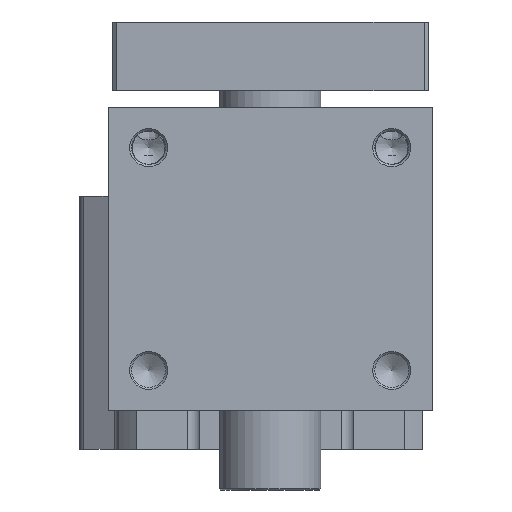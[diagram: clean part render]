
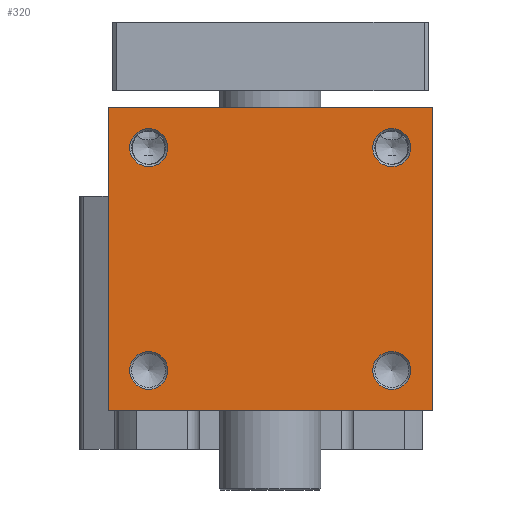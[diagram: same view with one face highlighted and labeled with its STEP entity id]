
A CAD part, left-side view. The second image highlights one B-rep face of the part: STEP entity #320.
In plain terms, the highlighted planar face has unit normal (-1, 0, 0).
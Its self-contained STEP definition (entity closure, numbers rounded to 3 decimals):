
#190=CARTESIAN_POINT('',(-81.641,-41.316,9.5));
#191=VERTEX_POINT('',#190);
#198=CARTESIAN_POINT('',(-81.641,38.684,9.5));
#199=VERTEX_POINT('',#198);
#200=CARTESIAN_POINT('',(-81.641,38.684,9.5));
#201=DIRECTION('',(0.0,-1.0,0.0));
#202=VECTOR('',#201,80.0);
#203=LINE('',#200,#202);
#204=EDGE_CURVE('',#199,#191,#203,.T.);
#242=CARTESIAN_POINT('',(-81.641,28.684,79.188));
#243=VERTEX_POINT('',#242);
#244=CARTESIAN_POINT('',(-81.641,28.684,74.5));
#245=DIRECTION('',(-1.0,0.0,0.0));
#246=DIRECTION('',(0.0,0.0,-1.0));
#247=AXIS2_PLACEMENT_3D('',#244,#245,#246);
#248=CIRCLE('',#247,4.688);
#249=EDGE_CURVE('',#243,#243,#248,.T.);
#254=CARTESIAN_POINT('',(-81.641,-1.316,9.5));
#255=DIRECTION('',(-1.0,0.0,0.0));
#256=DIRECTION('',(0.0,0.0,1.0));
#257=AXIS2_PLACEMENT_3D('',#254,#255,#256);
#258=PLANE('',#257);
#259=CARTESIAN_POINT('',(-81.641,-41.316,84.5));
#260=VERTEX_POINT('',#259);
#261=CARTESIAN_POINT('',(-81.641,-41.316,9.5));
#262=DIRECTION('',(0.0,0.0,1.0));
#263=VECTOR('',#262,75.0);
#264=LINE('',#261,#263);
#265=EDGE_CURVE('',#191,#260,#264,.T.);
#266=ORIENTED_EDGE('',*,*,#265,.T.);
#267=CARTESIAN_POINT('',(-81.641,38.684,84.5));
#268=VERTEX_POINT('',#267);
#269=CARTESIAN_POINT('',(-81.641,38.684,84.5));
#270=DIRECTION('',(0.0,-1.0,0.0));
#271=VECTOR('',#270,80.0);
#272=LINE('',#269,#271);
#273=EDGE_CURVE('',#268,#260,#272,.T.);
#274=ORIENTED_EDGE('',*,*,#273,.F.);
#275=CARTESIAN_POINT('',(-81.641,38.684,84.5));
#276=DIRECTION('',(0.0,0.0,-1.0));
#277=VECTOR('',#276,75.0);
#278=LINE('',#275,#277);
#279=EDGE_CURVE('',#268,#199,#278,.T.);
#280=ORIENTED_EDGE('',*,*,#279,.T.);
#281=ORIENTED_EDGE('',*,*,#204,.T.);
#282=EDGE_LOOP('',(#266,#274,#280,#281));
#283=FACE_OUTER_BOUND('',#282,.T.);
#284=CARTESIAN_POINT('',(-81.641,-31.316,79.188));
#285=VERTEX_POINT('',#284);
#286=CARTESIAN_POINT('',(-81.641,-31.316,74.5));
#287=DIRECTION('',(-1.0,0.0,0.0));
#288=DIRECTION('',(0.0,0.0,-1.0));
#289=AXIS2_PLACEMENT_3D('',#286,#287,#288);
#290=CIRCLE('',#289,4.688);
#291=EDGE_CURVE('',#285,#285,#290,.T.);
#292=ORIENTED_EDGE('',*,*,#291,.F.);
#293=EDGE_LOOP('',(#292));
#294=FACE_BOUND('',#293,.T.);
#295=CARTESIAN_POINT('',(-81.641,-31.316,24.188));
#296=VERTEX_POINT('',#295);
#297=CARTESIAN_POINT('',(-81.641,-31.316,19.5));
#298=DIRECTION('',(-1.0,0.0,0.0));
#299=DIRECTION('',(0.0,0.0,-1.0));
#300=AXIS2_PLACEMENT_3D('',#297,#298,#299);
#301=CIRCLE('',#300,4.688);
#302=EDGE_CURVE('',#296,#296,#301,.T.);
#303=ORIENTED_EDGE('',*,*,#302,.F.);
#304=EDGE_LOOP('',(#303));
#305=FACE_BOUND('',#304,.T.);
#306=CARTESIAN_POINT('',(-81.641,28.684,24.188));
#307=VERTEX_POINT('',#306);
#308=CARTESIAN_POINT('',(-81.641,28.684,19.5));
#309=DIRECTION('',(-1.0,0.0,0.0));
#310=DIRECTION('',(0.0,0.0,-1.0));
#311=AXIS2_PLACEMENT_3D('',#308,#309,#310);
#312=CIRCLE('',#311,4.688);
#313=EDGE_CURVE('',#307,#307,#312,.T.);
#314=ORIENTED_EDGE('',*,*,#313,.F.);
#315=EDGE_LOOP('',(#314));
#316=FACE_BOUND('',#315,.T.);
#317=ORIENTED_EDGE('',*,*,#249,.F.);
#318=EDGE_LOOP('',(#317));
#319=FACE_BOUND('',#318,.T.);
#320=ADVANCED_FACE('',(#283,#294,#305,#316,#319),#258,.T.);
